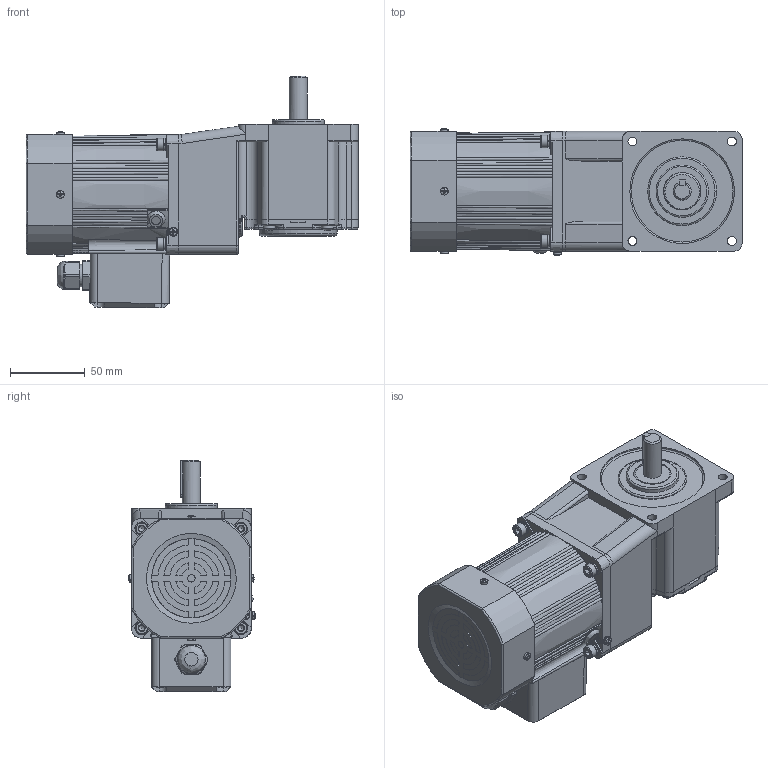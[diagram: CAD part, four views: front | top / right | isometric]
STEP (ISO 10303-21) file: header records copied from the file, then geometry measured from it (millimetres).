
FILE_DESCRIPTION(/* description */ (''),/* implementation_level */ '2;1');
FILE_NAME(/* name */ '80+中实直角-风叶-25-40W 新版常规接线盒.stp',/* time_stamp */ '2025-03-30T13:09:19+08:00',/* author */ (''),/* organization */ (''),/* preprocessor_version */ 'ST-DEVELOPER v18.102',/* originating_system */ 'SIEMENS PLM Software NX 2027',/* authorisation */ '');
FILE_SCHEMA (('AP203_CONFIGURATION_CONTROLLED_3D_DESIGN_OF_MECHANICAL_PARTS_AND_ASSEMBLIES_MIM_LF { 1 0 10303 403 2 1 2}'));
Length unit declared in the file: millimetre
Products named in the file (1): 80+中空直角-风叶-25-40W 新版_
stp_M0662BD48208x5z2
Bounding box: 222 x 84.67 x 154.9 mm (x, y, z)
Volume: 1240099 mm3; surface area: 146368.6 mm2
Topology: 17 solids, 17 shells, 1158 faces, 2935 edges, 1847 vertices
Faces by surface type: plane 493, cylinder 300, bspline 161, cone 94, torus 90, sphere 20
Full cylindrical faces by diameter (mm): 2.6 x1, 3.2 x1, 4.2 x4, 4.4 x1, 4.5 x4, 4.826 x4, 5 x10, 5.1 x5, 5.3 x4, 5.849 x1, 6 x10, 8 x4, 8.5 x4, 9 x5, 10.5 x1, 12 x3, 15 x2, 16 x1, 18 x1, 19 x2, 25 x1, 26 x1, 35 x1, 46 x1, 52 x1, 56 x1, 67 x1, 70 x1, 75 x1, 76 x1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
Entity records: 40548 total; most frequent: CARTESIAN_POINT 15055, ORIENTED_EDGE 5412, DIRECTION 4594, EDGE_CURVE 2706, AXIS2_PLACEMENT_3D 1788, VERTEX_POINT 1767, EDGE_LOOP 1433, ADVANCED_FACE 1156
